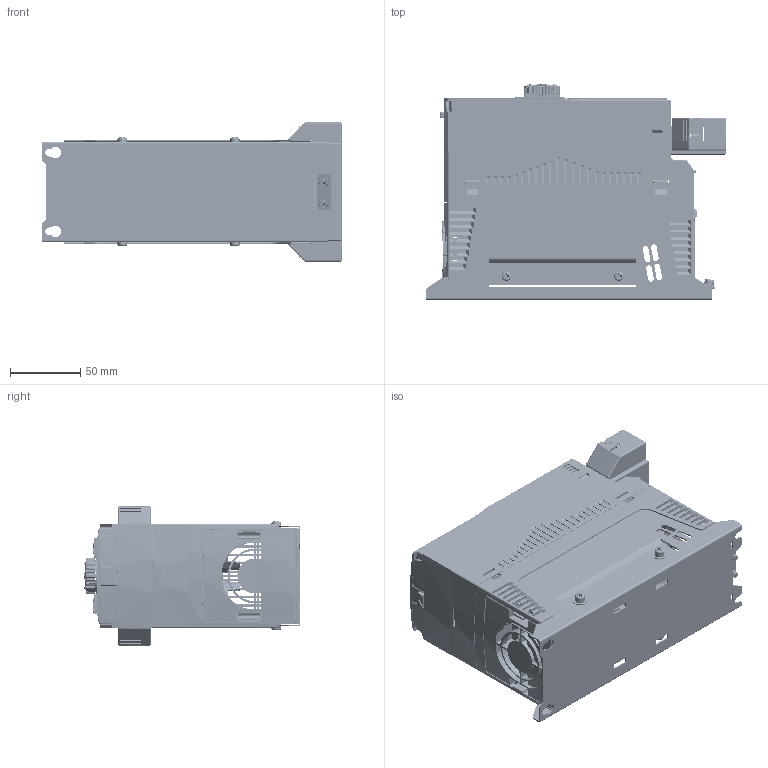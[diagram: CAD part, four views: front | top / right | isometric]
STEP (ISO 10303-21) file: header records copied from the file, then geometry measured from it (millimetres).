
FILE_DESCRIPTION((''),'2;1');
FILE_NAME('00-A8-2R2_ASM_38_ASM','2024-08-14T',('Administrator'),(''),'PRO/ENGINEER BY PARAMETRIC TECHNOLOGY CORPORATION, 2010280','PRO/ENGINEER BY PARAMETRIC TECHNOLOGY CORPORATION, 2010280','');
FILE_SCHEMA(('AUTOMOTIVE_DESIGN { 1 0 10303 214 1 1 1 1 }'));
Products named in the file (51): A8-2R2-01-01_3; A8-2R2-01-02_3; A8-2R2-01-03_3; A8-2R2-01_ASM_3_ASM; EMC-762-9PIN_3; A8Q-2R2-01Y-20220306_ASM_4_ASM; MANIFOLD_SOLID_BREP_172609; MANIFOLD_SOLID_BREP_172866; MANIFOLD_SOLID_BREP_173123; MANIFOLD_SOLID_BREP_173380; MANIFOLD_SOLID_BREP_173637; A8-2R2-01-10_3_ASM; M4X12_5_10001_6; M4X12_5_20001_4; M4X120001_ASM_4_ASM; GB9074-8-1988-M4X110_3; GB9074-8-1988-M4X10_2_2; GB9074-8-1988-M4X10_3_3; GB9074-8-1988-M4X10_ASM_6_ASM; A9-01-01_5; A9-01-02_3; A9-01-04_3; A9-01_ASM_5_ASM; 8PING-ZUO_3; KFM736-5D0_3; A9KZPCB_ASM_4_ASM; A9-01-08_3; A9-01-09_3; A9-01-10_3; A9-KZK-01_ASM_3_ASM; KZK_3; KF250-3-5_4; SKD-2500-03_6; KF250-3-5-2P_3; 8PIN-ZUO-1_3; KZK_ASM_3_ASM; KZK-00_ASM_3_ASM; A9-01-05_3; A9-01-06_3; A9-01-07_3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
Assembly tree (57 placements, depth 6):
  00-A8-2R2_ASM_38_ASM
    A8-2R2-01_ASM_3_ASM
      A8-2R2-01-01_3
      A8-2R2-01-02_3
      A8-2R2-01-03_3
    A8Q-2R2-01Y-20220306_ASM_4_ASM
      EMC-762-9PIN_3
    A8-2R2-01-10_3_ASM
      MANIFOLD_SOLID_BREP_172609
      MANIFOLD_SOLID_BREP_172866
      MANIFOLD_SOLID_BREP_173123
      MANIFOLD_SOLID_BREP_173380
      MANIFOLD_SOLID_BREP_173637
    M4X120001_ASM_4_ASM  x2
      M4X12_5_10001_6
      M4X12_5_20001_4
    GB9074-8-1988-M4X10_ASM_6_ASM  x4
      GB9074-8-1988-M4X110_3
      GB9074-8-1988-M4X10_2_2
      GB9074-8-1988-M4X10_3_3
    00-A9-KZ_ASM_5_ASM
      A9-01_ASM_5_ASM
        A9-01-01_5
        A9-01-02_3
        A9-01-04_3
      A9KZPCB_ASM_4_ASM
        8PING-ZUO_3  x2
        KFM736-5D0_3
      KZK-00_ASM_3_ASM
        A9-KZK-01_ASM_3_ASM
          A9-01-08_3
          A9-01-09_3
          A9-01-10_3
        KZK_ASM_3_ASM
          KZK_3
          KF250-3-5_4
          SKD-2500-03_6  x2
          KF250-3-5-2P_3
          8PIN-ZUO-1_3  x2
      A9-JP_ASM_4_ASM
        A9-JP-01_ASM_3_ASM
          A9-01-05_3
          A9-01-06_3
          A9-01-07_3
        A9-10_ASM_4_ASM
          A9-10-01_3
          A9-10-02_3
          A9-10-04_3_ASM
            MANIFOLD_SOLID_BREP_442989
            MANIFOLD_SOLID_BREP_457787
        H23T37-03Z_3
Bounding box: 213.2 x 153.8 x 99 mm (x, y, z)
Volume: 341375 mm3; surface area: 449396.5 mm2
Topology: 49 solids, 50 shells, 9961 faces, 33549 edges, 26061 vertices
Faces by surface type: plane 8080, cylinder 1319, cone 324, bspline 110, sphere 66, torus 62
Entity records: 426597 total; most frequent: CARTESIAN_POINT 75548, DIRECTION 52894, ORIENTED_EDGE 52326, EDGE_CURVE 26165, VECTOR 23948, LINE 23948, PRESENTATION_STYLE_ASSIGNMENT 20585, STYLED_ITEM 20527
